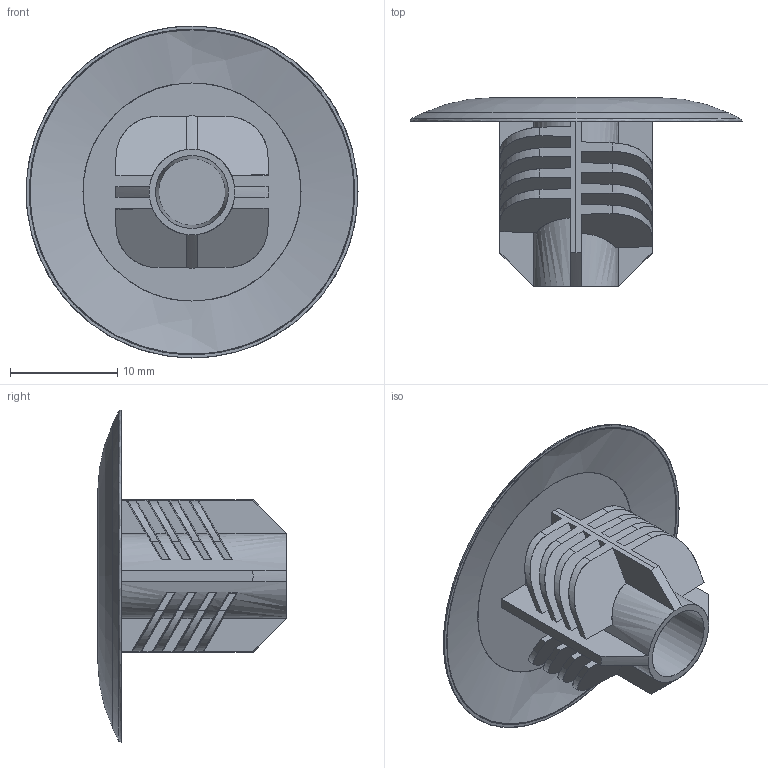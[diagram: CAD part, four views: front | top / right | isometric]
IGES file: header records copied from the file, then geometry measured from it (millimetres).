
Global section: file name: E:\lem\3DCAD_MTKZ_15_30_SET.igs; native system: NX V8.5; preprocessor: SIEMENS PLM Software NX 8.5; date: 20150401.080806; units: millimetre
Bounding box: 31 x 17.6 x 31 mm (x, y, z)
Surface area: 4136.5 mm2 (no closed solid volume)
Topology: 0 solids, 0 shells, 134 faces, 937 edges, 931 vertices
Faces by surface type: bspline 134
